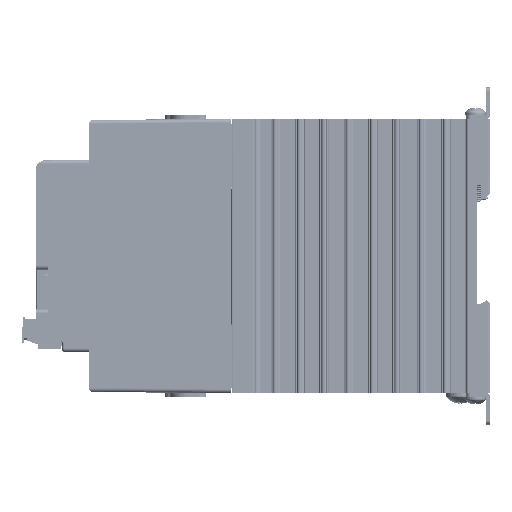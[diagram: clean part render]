
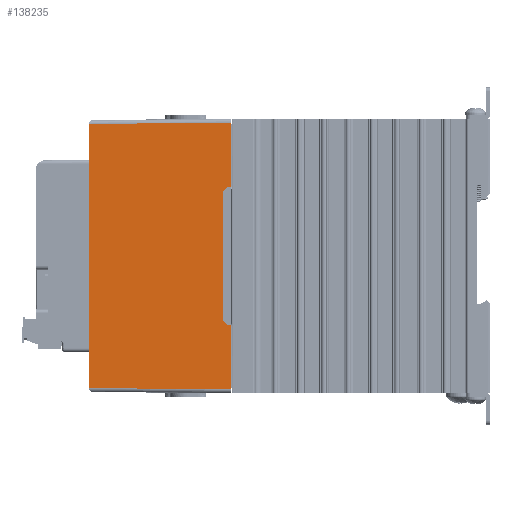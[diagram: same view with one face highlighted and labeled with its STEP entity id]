
A CAD part, left-side view. The second image highlights one B-rep face of the part: STEP entity #138235.
In plain terms, the highlighted planar face has unit normal (-1, 0.009, 0) as drawn and (1, 0, 0.009) by its records, which use the part's own axes.
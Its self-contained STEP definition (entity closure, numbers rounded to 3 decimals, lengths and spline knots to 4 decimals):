
#14538=FACE_OUTER_BOUND('',#22030,.T.);
#22030=EDGE_LOOP('',(#122197,#122198,#122199,#122200,#122201,#122202,#122203,
#122204,#122205,#122206));
#37234=LINE('',#236161,#52885);
#37364=LINE('',#236946,#53015);
#37370=LINE('',#236958,#53021);
#37374=LINE('',#236964,#53025);
#37376=LINE('',#236968,#53027);
#37378=LINE('',#236972,#53029);
#37379=LINE('',#236975,#53030);
#37724=LINE('',#237733,#53375);
#37726=LINE('',#237739,#53377);
#37727=LINE('',#237740,#53378);
#52885=VECTOR('',#180955,0.3937);
#53015=VECTOR('',#181331,0.3937);
#53021=VECTOR('',#181341,0.3937);
#53025=VECTOR('',#181349,0.3937);
#53027=VECTOR('',#181353,0.3937);
#53029=VECTOR('',#181357,0.3937);
#53030=VECTOR('',#181360,0.3937);
#53375=VECTOR('',#182085,0.3937);
#53377=VECTOR('',#182093,0.3937);
#53378=VECTOR('',#182094,0.3937);
#65592=VERTEX_POINT('',#236158);
#65593=VERTEX_POINT('',#236160);
#65696=VERTEX_POINT('',#236943);
#65697=VERTEX_POINT('',#236945);
#65700=VERTEX_POINT('',#236955);
#65701=VERTEX_POINT('',#236957);
#65702=VERTEX_POINT('',#236966);
#65703=VERTEX_POINT('',#236970);
#65704=VERTEX_POINT('',#236974);
#65904=VERTEX_POINT('',#237738);
#84365=EDGE_CURVE('',#65593,#65592,#37234,.T.);
#84553=EDGE_CURVE('',#65697,#65696,#37364,.T.);
#84559=EDGE_CURVE('',#65701,#65700,#37370,.T.);
#84563=EDGE_CURVE('',#65696,#65701,#37374,.T.);
#84565=EDGE_CURVE('',#65700,#65702,#37376,.T.);
#84567=EDGE_CURVE('',#65702,#65703,#37378,.T.);
#84568=EDGE_CURVE('',#65704,#65697,#37379,.T.);
#84934=EDGE_CURVE('',#65704,#65592,#37724,.T.);
#84937=EDGE_CURVE('',#65703,#65904,#37726,.T.);
#84938=EDGE_CURVE('',#65593,#65904,#37727,.T.);
#122197=ORIENTED_EDGE('',*,*,#84567,.T.);
#122198=ORIENTED_EDGE('',*,*,#84937,.T.);
#122199=ORIENTED_EDGE('',*,*,#84938,.F.);
#122200=ORIENTED_EDGE('',*,*,#84365,.T.);
#122201=ORIENTED_EDGE('',*,*,#84934,.F.);
#122202=ORIENTED_EDGE('',*,*,#84568,.T.);
#122203=ORIENTED_EDGE('',*,*,#84553,.T.);
#122204=ORIENTED_EDGE('',*,*,#84563,.T.);
#122205=ORIENTED_EDGE('',*,*,#84559,.T.);
#122206=ORIENTED_EDGE('',*,*,#84565,.T.);
#131634=PLANE('',#148357);
#138235=ADVANCED_FACE('',(#14538),#131634,.T.);
#148357=AXIS2_PLACEMENT_3D('',#237737,#182091,#182092);
#180955=DIRECTION('',(0.,-1.,0.));
#181331=DIRECTION('',(-0.009,0.009,1.));
#181341=DIRECTION('',(0.,1.,0.));
#181349=DIRECTION('',(-0.006,0.71,0.704));
#181353=DIRECTION('',(0.006,0.71,-0.704));
#181357=DIRECTION('',(0.009,0.009,-1.));
#181360=DIRECTION('',(0.,1.,0.));
#182085=DIRECTION('',(-0.009,0.009,1.));
#182091=DIRECTION('center_axis',(1.,0.,
0.009));
#182092=DIRECTION('ref_axis',(0.,1.,0.));
#182093=DIRECTION('',(0.,1.,0.));
#182094=DIRECTION('',(0.009,0.009,-1.));
#236158=CARTESIAN_POINT('',(1.3842,0.0658,1.811));
#236160=CARTESIAN_POINT('',(1.3842,3.4342,1.811));
#236161=CARTESIAN_POINT('',(1.3842,0.,1.811));
#236943=CARTESIAN_POINT('',(1.3995,0.8705,0.0521));
#236945=CARTESIAN_POINT('',(1.4,0.87,0.));
#236946=CARTESIAN_POINT('',(1.3996,0.8704,0.0436));
#236955=CARTESIAN_POINT('',(1.3991,2.5762,0.105));
#236957=CARTESIAN_POINT('',(1.3991,0.9238,0.105));
#236958=CARTESIAN_POINT('',(1.3991,3.0381,0.105));
#236964=CARTESIAN_POINT('',(1.3937,1.5503,0.726));
#236966=CARTESIAN_POINT('',(1.3995,2.6295,0.0521));
#236968=CARTESIAN_POINT('',(1.4015,2.859,-0.1754));
#236970=CARTESIAN_POINT('',(1.4,2.63,0.));
#236972=CARTESIAN_POINT('',(1.4,2.63,0.0023));
#236974=CARTESIAN_POINT('',(1.4,0.05,0.));
#236975=CARTESIAN_POINT('',(1.4,0.,0.));
#237733=CARTESIAN_POINT('',(1.3999,0.0501,0.0148));
#237737=CARTESIAN_POINT('Origin',(1.4,3.5,0.));
#237738=CARTESIAN_POINT('',(1.4,3.45,0.));
#237739=CARTESIAN_POINT('',(1.4,0.,0.));
#237740=CARTESIAN_POINT('',(1.4,3.45,0.0057));
